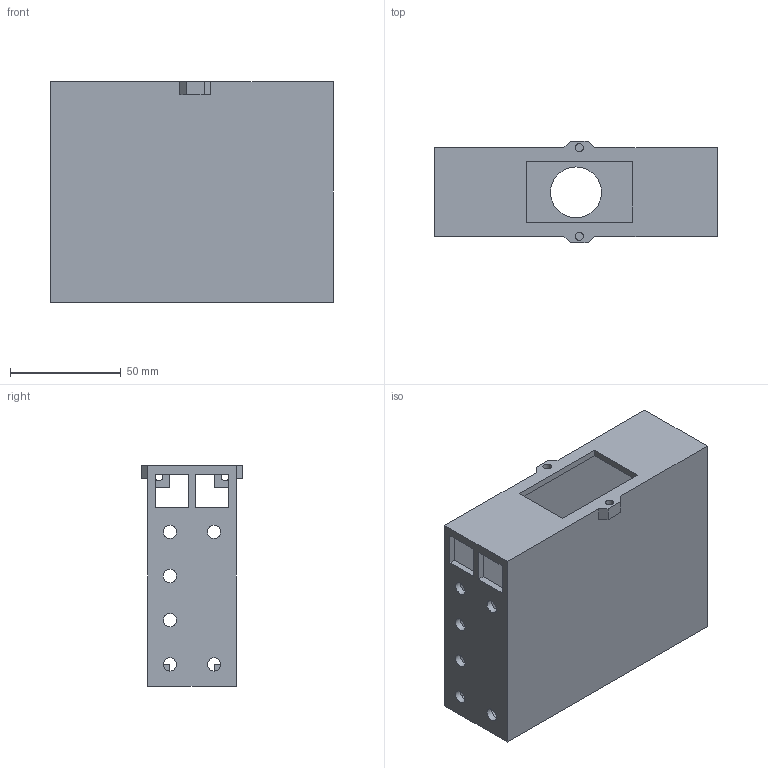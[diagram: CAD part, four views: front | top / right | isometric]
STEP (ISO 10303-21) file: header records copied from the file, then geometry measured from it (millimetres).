
FILE_DESCRIPTION(/* description */ (''),/* implementation_level */ '2;1');
FILE_NAME(/* name */ '/Users/davidflorian/Library/Mobile Documents/com~apple~CloudDocs/Vanderbilt/Papers/OTTO/Supplemental Material/3D-Printable-Components-STEP-Files/Female-AC-Connector-and-Emergency-Stop-Button-Housing.step',/* time_stamp */ '2020-06-30T23:23:30-05:00',/* author */ (''),/* organization */ (''),/* preprocessor_version */ 'ST-DEVELOPER v18.1',/* originating_system */ 'Autodesk Translation Framework v9.3.0.1241',/* authorisation */ '');
FILE_SCHEMA (('AUTOMOTIVE_DESIGN { 1 0 10303 214 3 1 1 }'));
Length unit declared in the file: millimetre
Products named in the file (1): Button and Power Input Housing
Bounding box: 128 x 46 x 100 mm (x, y, z)
Volume: 106616.7 mm3; surface area: 73355.8 mm2
Topology: 1 solids, 1 shells, 58 faces, 159 edges, 106 vertices
Faces by surface type: plane 45, cylinder 13
Full cylindrical faces by diameter (mm): 3.75 x6, 6 x6, 23 x1
Entity records: 1918 total; most frequent: CARTESIAN_POINT 324, ORIENTED_EDGE 318, DIRECTION 303, EDGE_CURVE 159, LINE 133, VECTOR 133, VERTEX_POINT 106, EDGE_LOOP 89
